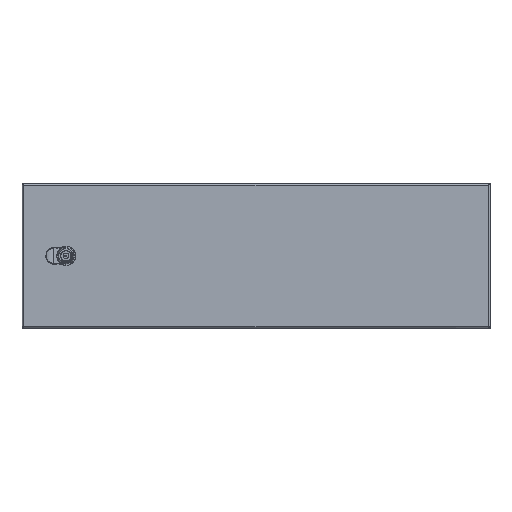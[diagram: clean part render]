
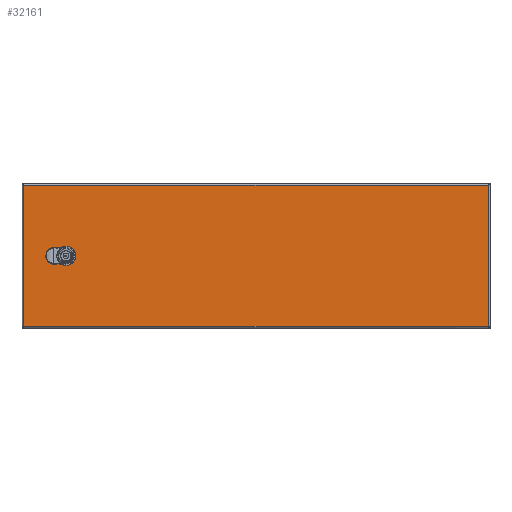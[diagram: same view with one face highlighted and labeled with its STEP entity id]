
A CAD part, top view. The second image highlights one B-rep face of the part: STEP entity #32161.
In plain terms, the highlighted planar face has unit normal (0, 0, 1).
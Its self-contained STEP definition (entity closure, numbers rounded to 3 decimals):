
#23786=CARTESIAN_POINT(' ',(-399.011,122.733,269.003));
#23787=VERTEX_POINT(' ',#23786);
#25221=CARTESIAN_POINT(' ',(389.389,122.733,269.003));
#25222=VERTEX_POINT(' ',#25221);
#26136=CARTESIAN_POINT(' ',(389.389,122.733,269.003));
#26141=DIRECTION(' ',(-1.,0.,0.));
#26146=VECTOR(' ',#26141,1.);
#26151=LINE('',#26136,#26146);
#26156=EDGE_CURVE(' ',#25222,#23787,#26151,.T.);
#30016=CARTESIAN_POINT(' ',(389.389,-116.667,269.003));
#30017=VERTEX_POINT(' ',#30016);
#31601=CARTESIAN_POINT(' ',(-399.011,-116.667,269.003));
#31602=VERTEX_POINT(' ',#31601);
#32031=DIRECTION(' ',(-0.,-0.,1.));
#32036=CARTESIAN_POINT(' ',(389.389,-116.667,269.003));
#32041=DIRECTION(' ',(0.,1.,0.));
#32046=AXIS2_PLACEMENT_3D(' ',#32036,#32031,#32041);
#32051=PLANE('NONE',#32046);
#32056=CARTESIAN_POINT(' ',(-399.011,-116.667,269.003));
#32061=DIRECTION(' ',(1.,0.,0.));
#32066=VECTOR(' ',#32061,1.);
#32071=LINE('',#32056,#32066);
#32076=EDGE_CURVE(' ',#31602,#30017,#32071,.T.);
#32081=ORIENTED_EDGE(' ',*,*,#32076,.T.);
#32086=CARTESIAN_POINT(' ',(389.389,122.733,269.003));
#32091=DIRECTION(' ',(0.,-1.,0.));
#32096=VECTOR(' ',#32091,1.);
#32101=LINE('',#32086,#32096);
#32106=EDGE_CURVE(' ',#25222,#30017,#32101,.T.);
#32111=ORIENTED_EDGE(' ',*,*,#32106,.F.);
#32116=ORIENTED_EDGE(' ',*,*,#26156,.T.);
#32121=CARTESIAN_POINT(' ',(-399.011,122.733,269.003));
#32126=DIRECTION(' ',(0.,-1.,0.));
#32131=VECTOR(' ',#32126,1.);
#32136=LINE('',#32121,#32131);
#32141=EDGE_CURVE(' ',#23787,#31602,#32136,.T.);
#32146=ORIENTED_EDGE(' ',*,*,#32141,.T.);
#32151=EDGE_LOOP(' ',(#32081,#32111,#32116,#32146));
#32156=FACE_OUTER_BOUND(' ',#32151,.T.);
#32161=ADVANCED_FACE('NONE',(#32156),#32051,.T.);
